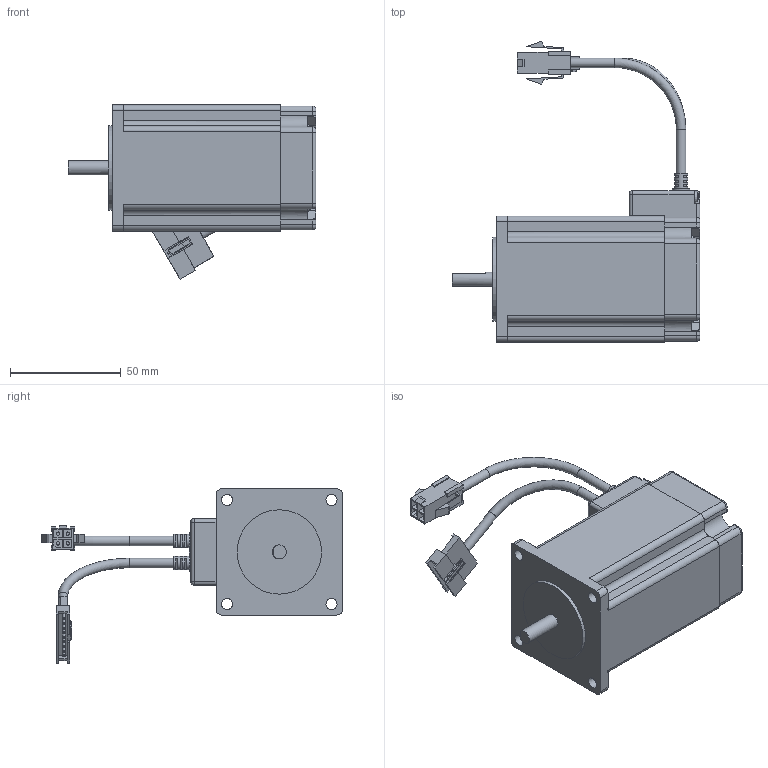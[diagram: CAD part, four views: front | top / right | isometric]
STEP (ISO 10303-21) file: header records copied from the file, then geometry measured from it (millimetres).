
FILE_DESCRIPTION(/* description */ (''),/* implementation_level */ '2;1');
FILE_NAME(/* name */ '\\EMN0D5F01\rp_inventor\RP Mechanical Design\Wiley\Updated Models\eCLM-S233F.stp',/* time_stamp */ '2016-10-27T15:50:49-07:00',/* author */ ('JDB'),/* organization */ ('Parker Hannifin Corp'),/* preprocessor_version */ 'ST-DEVELOPER v15.2',/* originating_system */ 'Autodesk Inventor 2014',/* authorisation */ '');
FILE_SCHEMA (('CONFIG_CONTROL_DESIGN'));
Products named in the file (1): eCLM-S233F_sw
Bounding box: 112 x 135.91 x 78.72 mm (x, y, z)
Volume: 250027.2 mm3; surface area: 49274.9 mm2
Topology: 3 solids, 3 shells, 3908 faces, 11419 edges, 7574 vertices
Faces by surface type: plane 3644, cylinder 155, bspline 52, cone 39, torus 10, sphere 8
Full cylindrical faces by diameter (mm): 1 x9, 1.5 x4, 1.6 x4, 2.1 x4, 2.3 x2, 2.5 x3, 4 x5, 4.3 x4, 5 x5, 6 x4, 6.35 x1, 8 x2, 9.2 x1, 17.5 x1, 38.1 x1
Entity records: 126989 total; most frequent: CARTESIAN_POINT 23793, ORIENTED_EDGE 22620, DIRECTION 19441, EDGE_CURVE 11308, LINE 10613, VECTOR 10613, VERTEX_POINT 7538, AXIS2_PLACEMENT_3D 4414
